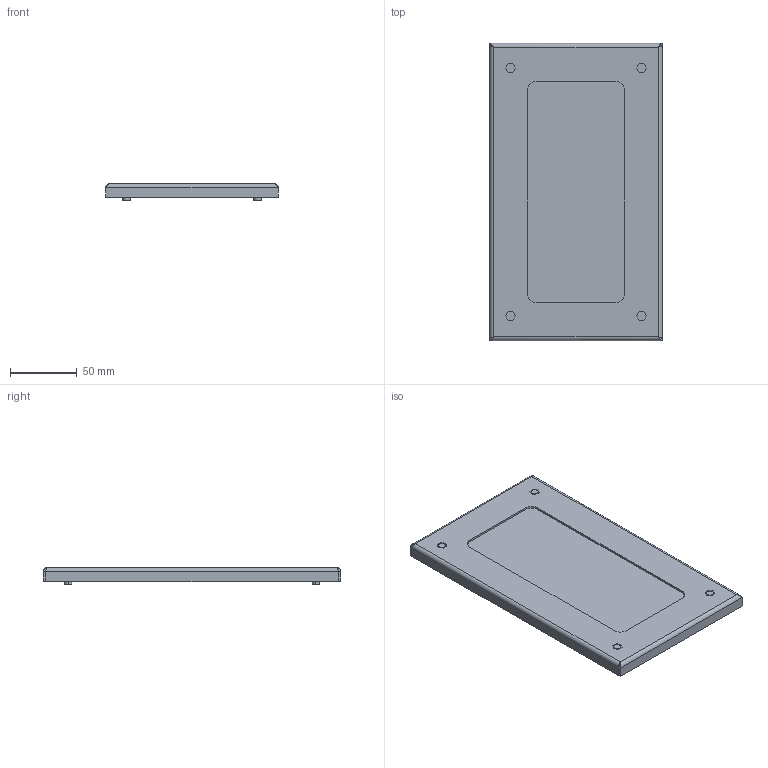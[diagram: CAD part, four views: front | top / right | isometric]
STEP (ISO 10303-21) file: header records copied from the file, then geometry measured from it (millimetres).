
FILE_DESCRIPTION((''),'2;1');
FILE_NAME('MODEL-390_ASM','2021-08-24T15:09:14',('mikek'),('SAGINAW CONTROL & ENGINEERING'),'CREO PARAMETRIC BY PTC INC, 2017260','CREO PARAMETRIC BY PTC INC, 2017260','');
FILE_SCHEMA(('AUTOMOTIVE_DESIGN { 1 0 10303 214 1 1 1 1 }'));
Length unit declared in the file: inch
Products named in the file (5): MODEL-390-FRAME; MODEL-390-LEXAN; 101019; 118415; MODEL-390_ASM
Assembly tree (7 placements, depth 2):
  MODEL-390_ASM
    MODEL-390-FRAME
    MODEL-390-LEXAN
    101019  x4
    118415
Bounding box: 129.54 x 223.52 x 12.7 mm (x, y, z)
Volume: 194597.9 mm3; surface area: 106638.5 mm2
Topology: 6 solids, 6 shells, 144 faces, 332 edges, 208 vertices
Faces by surface type: plane 72, cylinder 56, bspline 8, cone 8
Entity records: 6952 total; most frequent: CARTESIAN_POINT 2645, DIRECTION 488, ORIENTED_EDGE 460, PRESENTATION_STYLE_ASSIGNMENT 241, STYLED_ITEM 233, CURVE_STYLE 230, EDGE_CURVE 230, PROPERTY_DEFINITION 201
